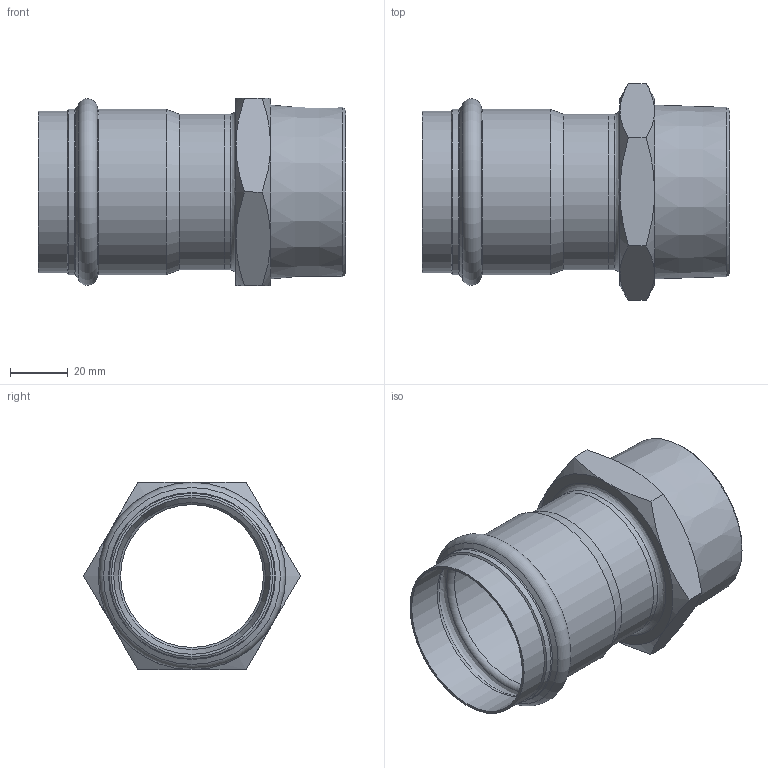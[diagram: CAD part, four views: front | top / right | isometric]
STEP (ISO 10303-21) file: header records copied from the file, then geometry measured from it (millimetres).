
FILE_DESCRIPTION((''),'2;1');
FILE_NAME('G:\Nirosan-Schmiedefeld\Technics\CAD\Bauteile VA\054\69243g542(2).stp','2011-10-27T08:25:03',('herberg'),(''),'Autodesk Inventor 2009','Autodesk Inventor 2009','');
FILE_SCHEMA(('AUTOMOTIVE_DESIGN { 1 0 10303 214 1 1 1 1 }'));
Length unit declared in the file: millimetre
Products named in the file (3): 69243g542(2); HM_69243G54(1); AG542(2)
Assembly tree (2 placements, depth 2):
  69243g542(2)
    HM_69243G54(1)
    AG542(2)
Bounding box: 106.5 x 75.06 x 65 mm (x, y, z)
Volume: 59341 mm3; surface area: 41864.7 mm2
Topology: 2 solids, 2 shells, 49 faces, 99 edges, 56 vertices
Faces by surface type: cone 19, plane 12, cylinder 8, bspline 7, torus 3
Full cylindrical faces by diameter (mm): 51 x1, 54 x2, 54.35 x2, 55.95 x1, 57.35 x2
Entity records: 1415 total; most frequent: CARTESIAN_POINT 491, DIRECTION 184, ORIENTED_EDGE 144, AXIS2_PLACEMENT_3D 89, EDGE_LOOP 80, EDGE_CURVE 72, VERTEX_POINT 54, FACE_OUTER_BOUND 49
